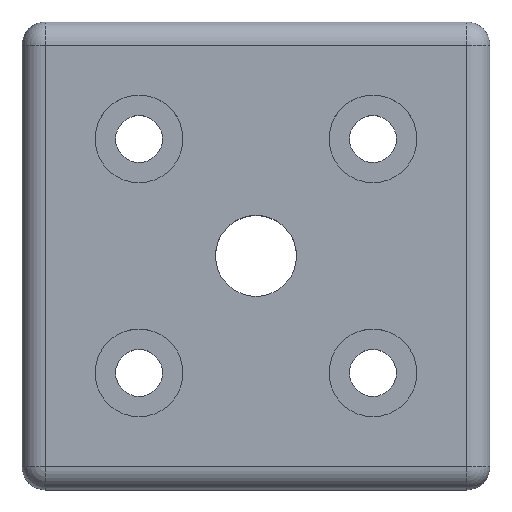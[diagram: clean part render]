
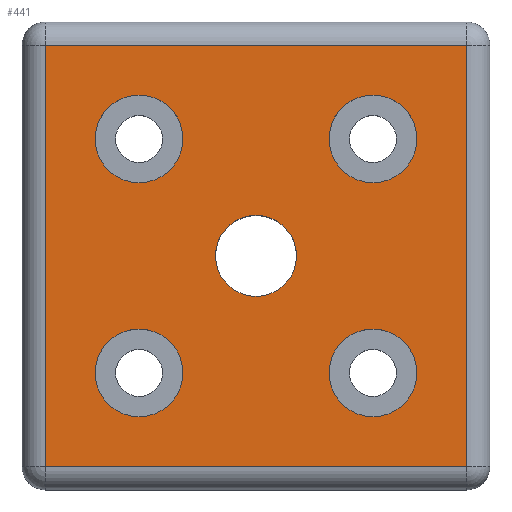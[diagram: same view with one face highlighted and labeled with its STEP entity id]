
A CAD part, top view. The second image highlights one B-rep face of the part: STEP entity #441.
In plain terms, the highlighted planar face has unit normal (0, 0, 1).
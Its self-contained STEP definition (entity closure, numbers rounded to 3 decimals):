
#32=CIRCLE('',#494,7.5);
#33=CIRCLE('',#495,7.5);
#34=CIRCLE('',#496,7.5);
#35=CIRCLE('',#497,7.5);
#36=CIRCLE('',#498,6.918);
#107=ORIENTED_EDGE('',*,*,#207,.T.);
#108=ORIENTED_EDGE('',*,*,#208,.T.);
#109=ORIENTED_EDGE('',*,*,#209,.T.);
#110=ORIENTED_EDGE('',*,*,#210,.T.);
#111=ORIENTED_EDGE('',*,*,#211,.T.);
#112=ORIENTED_EDGE('',*,*,#212,.T.);
#113=ORIENTED_EDGE('',*,*,#213,.T.);
#114=ORIENTED_EDGE('',*,*,#214,.T.);
#115=ORIENTED_EDGE('',*,*,#215,.T.);
#207=EDGE_CURVE('',#253,#253,#32,.T.);
#208=EDGE_CURVE('',#254,#254,#33,.T.);
#209=EDGE_CURVE('',#255,#255,#34,.T.);
#210=EDGE_CURVE('',#256,#256,#35,.T.);
#211=EDGE_CURVE('',#257,#257,#36,.T.);
#212=EDGE_CURVE('',#258,#259,#291,.T.);
#213=EDGE_CURVE('',#259,#260,#292,.T.);
#214=EDGE_CURVE('',#260,#261,#293,.T.);
#215=EDGE_CURVE('',#261,#258,#294,.T.);
#253=VERTEX_POINT('',#745);
#254=VERTEX_POINT('',#747);
#255=VERTEX_POINT('',#749);
#256=VERTEX_POINT('',#751);
#257=VERTEX_POINT('',#753);
#258=VERTEX_POINT('',#755);
#259=VERTEX_POINT('',#756);
#260=VERTEX_POINT('',#758);
#261=VERTEX_POINT('',#760);
#291=LINE('',#754,#311);
#292=LINE('',#757,#312);
#293=LINE('',#759,#313);
#294=LINE('',#761,#314);
#311=VECTOR('',#604,1000.);
#312=VECTOR('',#605,1000.);
#313=VECTOR('',#606,1000.);
#314=VECTOR('',#607,1000.);
#323=EDGE_LOOP('',(#107));
#324=EDGE_LOOP('',(#108));
#325=EDGE_LOOP('',(#109));
#326=EDGE_LOOP('',(#110));
#327=EDGE_LOOP('',(#111));
#328=EDGE_LOOP('',(#112,#113,#114,#115));
#377=FACE_BOUND('',#323,.T.);
#378=FACE_BOUND('',#324,.T.);
#379=FACE_BOUND('',#325,.T.);
#380=FACE_BOUND('',#326,.T.);
#381=FACE_BOUND('',#327,.T.);
#382=FACE_BOUND('',#328,.T.);
#427=PLANE('',#493);
#441=ADVANCED_FACE('',(#377,#378,#379,#380,#381,#382),#427,.T.);
#493=AXIS2_PLACEMENT_3D('',#743,#592,#593);
#494=AXIS2_PLACEMENT_3D('',#744,#594,#595);
#495=AXIS2_PLACEMENT_3D('',#746,#596,#597);
#496=AXIS2_PLACEMENT_3D('',#748,#598,#599);
#497=AXIS2_PLACEMENT_3D('',#750,#600,#601);
#498=AXIS2_PLACEMENT_3D('',#752,#602,#603);
#592=DIRECTION('',(0.,0.,1.));
#593=DIRECTION('',(1.,0.,0.));
#594=DIRECTION('',(0.,0.,-1.));
#595=DIRECTION('',(-1.,0.,0.));
#596=DIRECTION('',(0.,0.,-1.));
#597=DIRECTION('',(-1.,0.,0.));
#598=DIRECTION('',(0.,0.,-1.));
#599=DIRECTION('',(-1.,0.,0.));
#600=DIRECTION('',(0.,0.,-1.));
#601=DIRECTION('',(-1.,0.,0.));
#602=DIRECTION('',(0.,0.,-1.));
#603=DIRECTION('',(-1.,0.,0.));
#604=DIRECTION('',(0.,1.,0.));
#605=DIRECTION('',(-1.,0.,0.));
#606=DIRECTION('',(0.,-1.,0.));
#607=DIRECTION('',(1.,0.,0.));
#743=CARTESIAN_POINT('',(-36.,-36.,16.));
#744=CARTESIAN_POINT('',(-20.,20.,16.));
#745=CARTESIAN_POINT('',(-27.5,20.,16.));
#746=CARTESIAN_POINT('',(20.,-20.,16.));
#747=CARTESIAN_POINT('',(12.5,-20.,16.));
#748=CARTESIAN_POINT('',(-20.,-20.,16.));
#749=CARTESIAN_POINT('',(-27.5,-20.,16.));
#750=CARTESIAN_POINT('',(20.,20.,16.));
#751=CARTESIAN_POINT('',(12.5,20.,16.));
#752=CARTESIAN_POINT('',(0.,0.,16.));
#753=CARTESIAN_POINT('',(-6.918,0.,16.));
#754=CARTESIAN_POINT('',(36.,36.,16.));
#755=CARTESIAN_POINT('',(36.,-36.,16.));
#756=CARTESIAN_POINT('',(36.,36.,16.));
#757=CARTESIAN_POINT('',(-36.,36.,16.));
#758=CARTESIAN_POINT('',(-36.,36.,16.));
#759=CARTESIAN_POINT('',(-36.,-36.,16.));
#760=CARTESIAN_POINT('',(-36.,-36.,16.));
#761=CARTESIAN_POINT('',(36.,-36.,16.));
